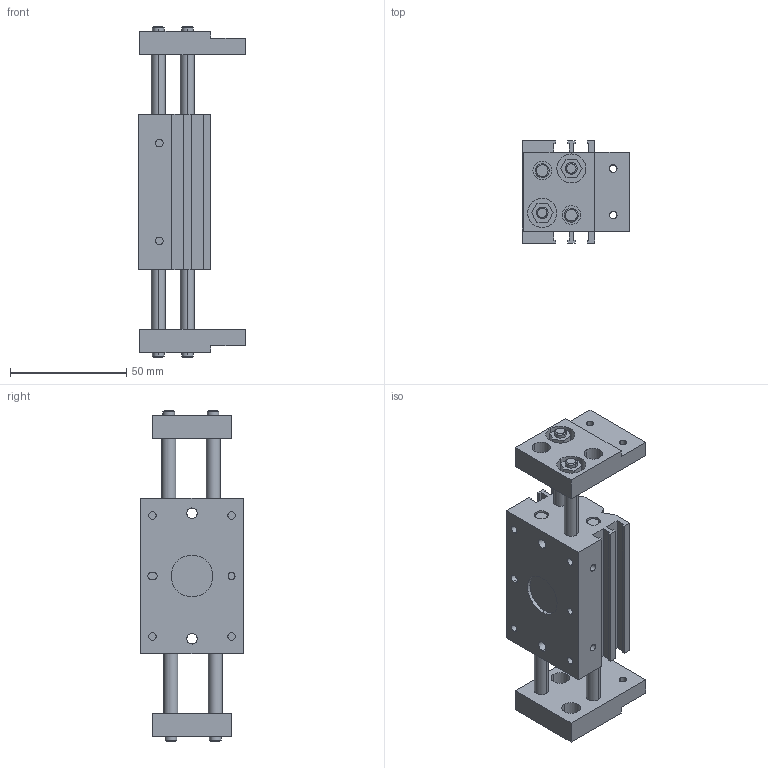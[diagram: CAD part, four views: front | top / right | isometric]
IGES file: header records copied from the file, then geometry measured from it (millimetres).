
Global section: file name: No Iges File Name specified; native system: AutoDesk Inventor R11.0; preprocessor: AutoDesk Inventor Iges Exporter R11.0; author: No Author specified; organization: No Organization specified; date: 20070224.105209; units: millimetre
Bounding box: 46 x 44 x 142 mm (x, y, z)
Volume: 106631.6 mm3; surface area: 41263.3 mm2
Topology: 3 solids, 3 shells, 203 faces, 494 edges, 324 vertices
Faces by surface type: plane 101, bspline 56, cylinder 16, cone 16, revolution 14
